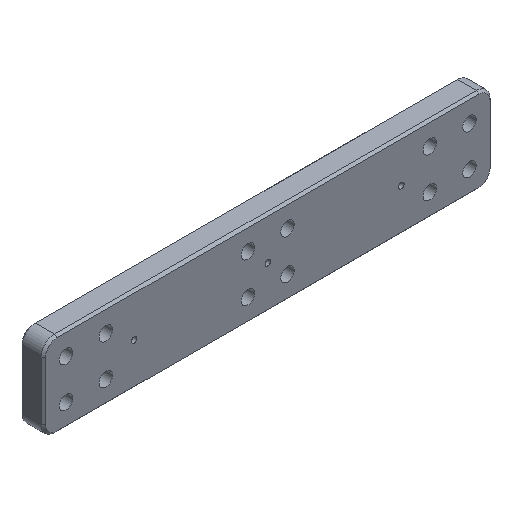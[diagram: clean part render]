
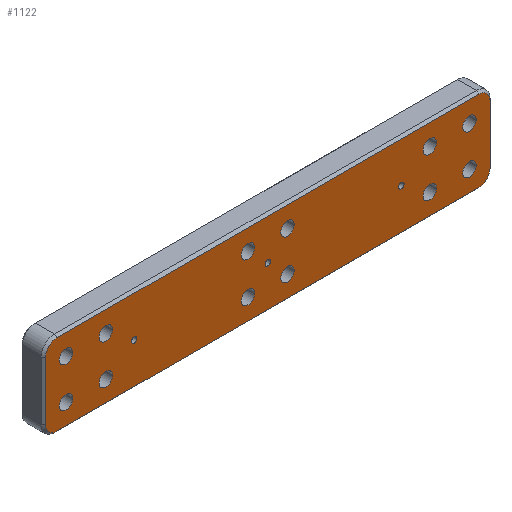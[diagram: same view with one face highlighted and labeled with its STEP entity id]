
A CAD part, isometric view. The second image highlights one B-rep face of the part: STEP entity #1122.
In plain terms, the highlighted planar face has unit normal (0, -1, 0).
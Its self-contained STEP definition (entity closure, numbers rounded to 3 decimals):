
#53=FACE_BOUND('',#257,.T.);
#54=FACE_BOUND('',#258,.T.);
#55=FACE_BOUND('',#259,.T.);
#56=FACE_BOUND('',#260,.T.);
#57=FACE_BOUND('',#261,.T.);
#58=FACE_BOUND('',#262,.T.);
#59=FACE_BOUND('',#263,.T.);
#60=FACE_BOUND('',#264,.T.);
#61=FACE_BOUND('',#265,.T.);
#62=FACE_BOUND('',#266,.T.);
#63=FACE_BOUND('',#267,.T.);
#64=FACE_BOUND('',#268,.T.);
#65=FACE_BOUND('',#269,.T.);
#66=FACE_BOUND('',#270,.T.);
#67=FACE_BOUND('',#271,.T.);
#90=PLANE('',#1281);
#155=FACE_OUTER_BOUND('',#256,.T.);
#256=EDGE_LOOP('',(#959,#960,#961,#962,#963,#964,#965,#966));
#257=EDGE_LOOP('',(#967));
#258=EDGE_LOOP('',(#968));
#259=EDGE_LOOP('',(#969));
#260=EDGE_LOOP('',(#970));
#261=EDGE_LOOP('',(#971));
#262=EDGE_LOOP('',(#972));
#263=EDGE_LOOP('',(#973));
#264=EDGE_LOOP('',(#974));
#265=EDGE_LOOP('',(#975));
#266=EDGE_LOOP('',(#976));
#267=EDGE_LOOP('',(#977));
#268=EDGE_LOOP('',(#978));
#269=EDGE_LOOP('',(#979));
#270=EDGE_LOOP('',(#980));
#271=EDGE_LOOP('',(#981));
#320=LINE('',#1886,#390);
#324=LINE('',#1898,#394);
#328=LINE('',#1910,#398);
#332=LINE('',#1921,#402);
#390=VECTOR('',#1562,10.);
#394=VECTOR('',#1574,10.);
#398=VECTOR('',#1586,10.);
#402=VECTOR('',#1598,10.);
#436=CIRCLE('',#1170,3.);
#437=CIRCLE('',#1172,3.);
#438=CIRCLE('',#1174,3.);
#439=CIRCLE('',#1176,3.);
#441=CIRCLE('',#1179,1.225);
#475=CIRCLE('',#1233,1.225);
#477=CIRCLE('',#1236,1.225);
#480=CIRCLE('',#1244,3.);
#481=CIRCLE('',#1246,3.);
#482=CIRCLE('',#1248,3.);
#483=CIRCLE('',#1250,3.);
#484=CIRCLE('',#1252,3.);
#485=CIRCLE('',#1254,3.);
#486=CIRCLE('',#1256,3.);
#487=CIRCLE('',#1258,3.);
#489=CIRCLE('',#1261,5.);
#491=CIRCLE('',#1265,5.);
#493=CIRCLE('',#1269,5.);
#495=CIRCLE('',#1273,5.);
#512=VERTEX_POINT('',#1700);
#513=VERTEX_POINT('',#1704);
#514=VERTEX_POINT('',#1708);
#515=VERTEX_POINT('',#1712);
#517=VERTEX_POINT('',#1718);
#555=VERTEX_POINT('',#1824);
#557=VERTEX_POINT('',#1830);
#560=VERTEX_POINT('',#1844);
#561=VERTEX_POINT('',#1848);
#562=VERTEX_POINT('',#1852);
#563=VERTEX_POINT('',#1856);
#564=VERTEX_POINT('',#1860);
#565=VERTEX_POINT('',#1864);
#566=VERTEX_POINT('',#1868);
#567=VERTEX_POINT('',#1872);
#568=VERTEX_POINT('',#1876);
#571=VERTEX_POINT('',#1881);
#572=VERTEX_POINT('',#1885);
#574=VERTEX_POINT('',#1891);
#576=VERTEX_POINT('',#1897);
#578=VERTEX_POINT('',#1903);
#580=VERTEX_POINT('',#1909);
#582=VERTEX_POINT('',#1915);
#609=EDGE_CURVE('',#512,#512,#436,.T.);
#611=EDGE_CURVE('',#513,#513,#437,.T.);
#613=EDGE_CURVE('',#514,#514,#438,.T.);
#615=EDGE_CURVE('',#515,#515,#439,.T.);
#618=EDGE_CURVE('',#517,#517,#441,.T.);
#666=EDGE_CURVE('',#555,#555,#475,.T.);
#669=EDGE_CURVE('',#557,#557,#477,.T.);
#675=EDGE_CURVE('',#560,#560,#480,.T.);
#677=EDGE_CURVE('',#561,#561,#481,.T.);
#679=EDGE_CURVE('',#562,#562,#482,.T.);
#681=EDGE_CURVE('',#563,#563,#483,.T.);
#683=EDGE_CURVE('',#564,#564,#484,.T.);
#685=EDGE_CURVE('',#565,#565,#485,.T.);
#687=EDGE_CURVE('',#566,#566,#486,.T.);
#689=EDGE_CURVE('',#567,#567,#487,.T.);
#693=EDGE_CURVE('',#571,#568,#489,.T.);
#694=EDGE_CURVE('',#568,#572,#320,.T.);
#699=EDGE_CURVE('',#572,#574,#491,.T.);
#700=EDGE_CURVE('',#574,#576,#324,.T.);
#705=EDGE_CURVE('',#576,#578,#493,.T.);
#706=EDGE_CURVE('',#578,#580,#328,.T.);
#711=EDGE_CURVE('',#580,#582,#495,.T.);
#712=EDGE_CURVE('',#582,#571,#332,.T.);
#959=ORIENTED_EDGE('',*,*,#693,.F.);
#960=ORIENTED_EDGE('',*,*,#712,.F.);
#961=ORIENTED_EDGE('',*,*,#711,.F.);
#962=ORIENTED_EDGE('',*,*,#706,.F.);
#963=ORIENTED_EDGE('',*,*,#705,.F.);
#964=ORIENTED_EDGE('',*,*,#700,.F.);
#965=ORIENTED_EDGE('',*,*,#699,.F.);
#966=ORIENTED_EDGE('',*,*,#694,.F.);
#967=ORIENTED_EDGE('',*,*,#609,.T.);
#968=ORIENTED_EDGE('',*,*,#611,.T.);
#969=ORIENTED_EDGE('',*,*,#613,.T.);
#970=ORIENTED_EDGE('',*,*,#615,.T.);
#971=ORIENTED_EDGE('',*,*,#618,.T.);
#972=ORIENTED_EDGE('',*,*,#666,.T.);
#973=ORIENTED_EDGE('',*,*,#669,.T.);
#974=ORIENTED_EDGE('',*,*,#675,.T.);
#975=ORIENTED_EDGE('',*,*,#677,.T.);
#976=ORIENTED_EDGE('',*,*,#679,.T.);
#977=ORIENTED_EDGE('',*,*,#681,.T.);
#978=ORIENTED_EDGE('',*,*,#683,.T.);
#979=ORIENTED_EDGE('',*,*,#685,.T.);
#980=ORIENTED_EDGE('',*,*,#687,.T.);
#981=ORIENTED_EDGE('',*,*,#689,.T.);
#1122=ADVANCED_FACE('',(#155,#53,#54,#55,#56,#57,#58,#59,#60,#61,#62,#63,
#64,#65,#66,#67),#90,.F.);
#1170=AXIS2_PLACEMENT_3D('',#1702,#1345,#1346);
#1172=AXIS2_PLACEMENT_3D('',#1706,#1350,#1351);
#1174=AXIS2_PLACEMENT_3D('',#1710,#1355,#1356);
#1176=AXIS2_PLACEMENT_3D('',#1714,#1360,#1361);
#1179=AXIS2_PLACEMENT_3D('',#1720,#1367,#1368);
#1233=AXIS2_PLACEMENT_3D('',#1826,#1489,#1490);
#1236=AXIS2_PLACEMENT_3D('',#1832,#1496,#1497);
#1244=AXIS2_PLACEMENT_3D('',#1846,#1515,#1516);
#1246=AXIS2_PLACEMENT_3D('',#1850,#1520,#1521);
#1248=AXIS2_PLACEMENT_3D('',#1854,#1525,#1526);
#1250=AXIS2_PLACEMENT_3D('',#1858,#1530,#1531);
#1252=AXIS2_PLACEMENT_3D('',#1862,#1535,#1536);
#1254=AXIS2_PLACEMENT_3D('',#1866,#1540,#1541);
#1256=AXIS2_PLACEMENT_3D('',#1870,#1545,#1546);
#1258=AXIS2_PLACEMENT_3D('',#1874,#1550,#1551);
#1261=AXIS2_PLACEMENT_3D('',#1883,#1558,#1559);
#1265=AXIS2_PLACEMENT_3D('',#1895,#1570,#1571);
#1269=AXIS2_PLACEMENT_3D('',#1907,#1582,#1583);
#1273=AXIS2_PLACEMENT_3D('',#1919,#1594,#1595);
#1281=AXIS2_PLACEMENT_3D('',#1941,#1619,#1620);
#1345=DIRECTION('center_axis',(0.,1.,0.));
#1346=DIRECTION('ref_axis',(-1.,0.,0.));
#1350=DIRECTION('center_axis',(0.,1.,0.));
#1351=DIRECTION('ref_axis',(-1.,0.,0.));
#1355=DIRECTION('center_axis',(0.,1.,0.));
#1356=DIRECTION('ref_axis',(-1.,0.,0.));
#1360=DIRECTION('center_axis',(0.,1.,0.));
#1361=DIRECTION('ref_axis',(-1.,0.,0.));
#1367=DIRECTION('center_axis',(0.,1.,0.));
#1368=DIRECTION('ref_axis',(-1.,0.,0.));
#1489=DIRECTION('center_axis',(0.,1.,0.));
#1490=DIRECTION('ref_axis',(-1.,0.,0.));
#1496=DIRECTION('center_axis',(0.,1.,0.));
#1497=DIRECTION('ref_axis',(-1.,0.,0.));
#1515=DIRECTION('center_axis',(0.,1.,0.));
#1516=DIRECTION('ref_axis',(-1.,0.,0.));
#1520=DIRECTION('center_axis',(0.,1.,0.));
#1521=DIRECTION('ref_axis',(-1.,0.,0.));
#1525=DIRECTION('center_axis',(0.,1.,0.));
#1526=DIRECTION('ref_axis',(-1.,0.,0.));
#1530=DIRECTION('center_axis',(0.,1.,0.));
#1531=DIRECTION('ref_axis',(-1.,0.,0.));
#1535=DIRECTION('center_axis',(0.,1.,0.));
#1536=DIRECTION('ref_axis',(-1.,0.,0.));
#1540=DIRECTION('center_axis',(0.,1.,0.));
#1541=DIRECTION('ref_axis',(-1.,0.,0.));
#1545=DIRECTION('center_axis',(0.,1.,0.));
#1546=DIRECTION('ref_axis',(-1.,0.,0.));
#1550=DIRECTION('center_axis',(0.,1.,0.));
#1551=DIRECTION('ref_axis',(-1.,0.,0.));
#1558=DIRECTION('center_axis',(0.,1.,0.));
#1559=DIRECTION('ref_axis',(-0.707,0.,0.707));
#1562=DIRECTION('',(1.,0.,0.));
#1570=DIRECTION('center_axis',(0.,1.,0.));
#1571=DIRECTION('ref_axis',(0.707,0.,0.707));
#1574=DIRECTION('',(0.,0.,-1.));
#1582=DIRECTION('center_axis',(0.,1.,0.));
#1583=DIRECTION('ref_axis',(0.707,0.,-0.707));
#1586=DIRECTION('',(-1.,0.,0.));
#1594=DIRECTION('center_axis',(0.,1.,0.));
#1595=DIRECTION('ref_axis',(-0.707,0.,-0.707));
#1598=DIRECTION('',(0.,0.,1.));
#1619=DIRECTION('center_axis',(0.,1.,0.));
#1620=DIRECTION('ref_axis',(1.,0.,0.));
#1700=CARTESIAN_POINT('',(11.838,0.,-8.838));
#1702=CARTESIAN_POINT('Origin',(8.838,0.,-8.838));
#1704=CARTESIAN_POINT('',(11.838,0.,8.839));
#1706=CARTESIAN_POINT('Origin',(8.838,0.,8.839));
#1708=CARTESIAN_POINT('',(-5.839,0.,-8.838));
#1710=CARTESIAN_POINT('Origin',(-8.839,0.,-8.838));
#1712=CARTESIAN_POINT('',(-5.839,0.,8.839));
#1714=CARTESIAN_POINT('Origin',(-8.839,0.,8.839));
#1718=CARTESIAN_POINT('',(1.225,0.,0.));
#1720=CARTESIAN_POINT('Origin',(0.,0.,0.));
#1824=CARTESIAN_POINT('',(-58.275,0.,0.));
#1826=CARTESIAN_POINT('Origin',(-59.5,0.,0.));
#1830=CARTESIAN_POINT('',(60.725,0.,0.));
#1832=CARTESIAN_POINT('Origin',(59.5,0.,0.));
#1844=CARTESIAN_POINT('',(75.162,0.,8.839));
#1846=CARTESIAN_POINT('Origin',(72.162,0.,8.839));
#1848=CARTESIAN_POINT('',(-86.839,0.,-8.839));
#1850=CARTESIAN_POINT('Origin',(-89.839,0.,-8.839));
#1852=CARTESIAN_POINT('',(-69.162,0.,-8.839));
#1854=CARTESIAN_POINT('Origin',(-72.162,0.,-8.839));
#1856=CARTESIAN_POINT('',(92.839,0.,8.839));
#1858=CARTESIAN_POINT('Origin',(89.839,0.,8.839));
#1860=CARTESIAN_POINT('',(75.162,0.,-8.838));
#1862=CARTESIAN_POINT('Origin',(72.162,0.,-8.838));
#1864=CARTESIAN_POINT('',(-86.839,0.,8.839));
#1866=CARTESIAN_POINT('Origin',(-89.839,0.,8.839));
#1868=CARTESIAN_POINT('',(-69.162,0.,8.839));
#1870=CARTESIAN_POINT('Origin',(-72.162,0.,8.839));
#1872=CARTESIAN_POINT('',(92.839,0.,-8.838));
#1874=CARTESIAN_POINT('Origin',(89.839,0.,-8.838));
#1876=CARTESIAN_POINT('',(-94.,0.,18.));
#1881=CARTESIAN_POINT('',(-99.,0.,13.));
#1883=CARTESIAN_POINT('Origin',(-94.,0.,13.));
#1885=CARTESIAN_POINT('',(94.,0.,18.));
#1886=CARTESIAN_POINT('',(-50.,0.,18.));
#1891=CARTESIAN_POINT('',(99.,0.,13.));
#1895=CARTESIAN_POINT('Origin',(94.,0.,13.));
#1897=CARTESIAN_POINT('',(99.,0.,-13.));
#1898=CARTESIAN_POINT('',(99.,0.,9.5));
#1903=CARTESIAN_POINT('',(94.,0.,-18.));
#1907=CARTESIAN_POINT('Origin',(94.,0.,-13.));
#1909=CARTESIAN_POINT('',(-94.,0.,-18.));
#1910=CARTESIAN_POINT('',(50.,0.,-18.));
#1915=CARTESIAN_POINT('',(-99.,0.,-13.));
#1919=CARTESIAN_POINT('Origin',(-94.,0.,-13.));
#1921=CARTESIAN_POINT('',(-99.,0.,-9.5));
#1941=CARTESIAN_POINT('Origin',(0.,0.,0.));
